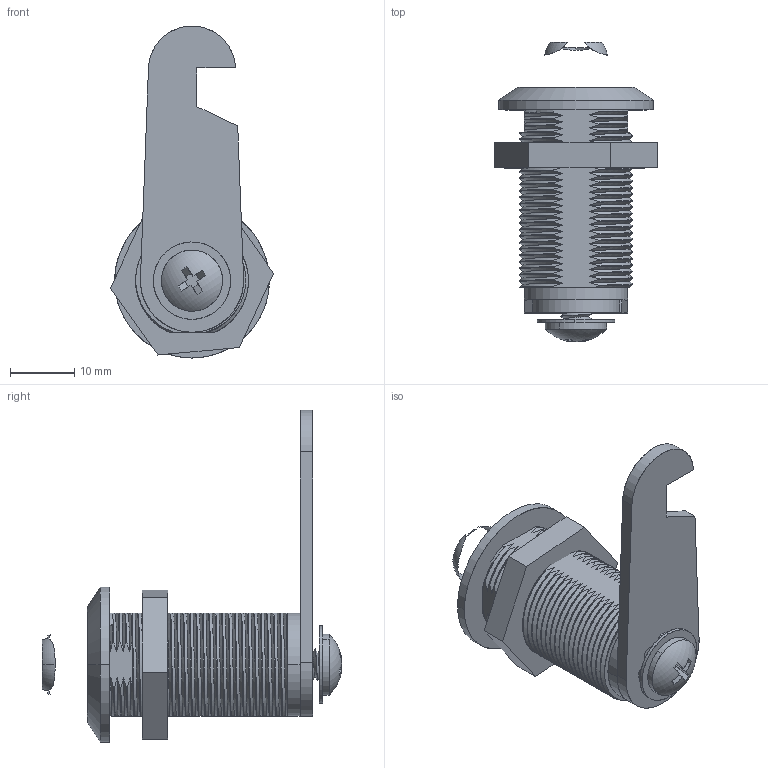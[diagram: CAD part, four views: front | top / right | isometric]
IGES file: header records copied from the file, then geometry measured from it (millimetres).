
Start section: SolidWorks IGES file using analytic representation for surfaces
Global section: file name: D:\尚坤工业图纸\SK1--门锁系列\SK1-005-4\SK1-005-4.IGS; native system: SolidWorks 2015; preprocessor: SolidWorks 2015; author: admin; date: 181101.101734; units: millimetre
Bounding box: 25.3 x 46.46 x 51.5 mm (x, y, z)
Surface area: 6378.8 mm2 (no closed solid volume)
Topology: 0 solids, 0 shells, 357 faces, 3889 edges, 3887 vertices
Faces by surface type: bspline 224, revolution 133
